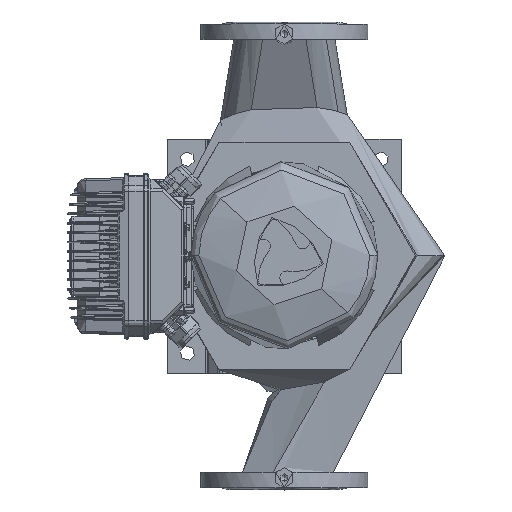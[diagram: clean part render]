
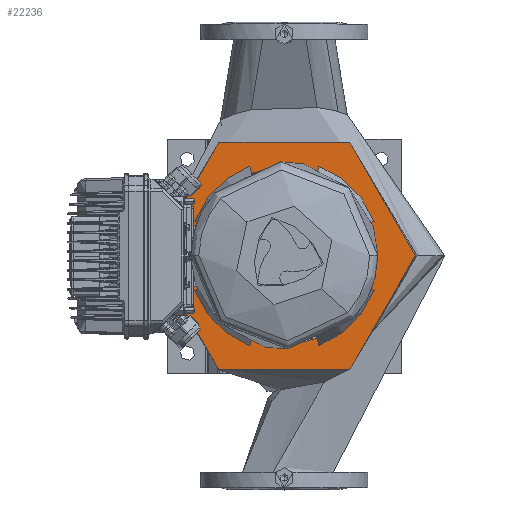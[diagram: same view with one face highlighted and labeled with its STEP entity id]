
A CAD part, top view. The second image highlights one B-rep face of the part: STEP entity #22236.
In plain terms, the highlighted planar face has unit normal (0, 0, 1) as drawn and (1, 0, 0) by its records, which use the part's own axes.
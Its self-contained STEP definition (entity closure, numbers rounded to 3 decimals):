
#22236=ADVANCED_FACE('',(#44379,#44380),#44381,.T.);
#22260=EDGE_CURVE('',#44420,#44421,#44422,.T.);
#22284=EDGE_CURVE('',#44464,#44465,#44466,.T.);
#22292=EDGE_CURVE('',#44474,#44477,#44478,.T.);
#22300=EDGE_CURVE('',#44486,#44489,#44490,.T.);
#22306=EDGE_CURVE('',#44493,#44465,#44498,.T.);
#22308=EDGE_CURVE('',#44500,#44477,#44501,.T.);
#22316=EDGE_CURVE('',#44512,#44508,#44513,.T.);
#22324=EDGE_CURVE('',#44523,#44519,#44524,.T.);
#22332=EDGE_CURVE('',#44530,#44533,#44534,.T.);
#22342=EDGE_CURVE('',#44544,#44474,#44547,.T.);
#22348=EDGE_CURVE('',#44552,#44486,#44555,.T.);
#22356=EDGE_CURVE('',#44563,#44558,#44566,.T.);
#22358=EDGE_CURVE('',#44489,#44508,#44568,.T.);
#22362=EDGE_CURVE('',#44558,#44519,#44572,.T.);
#22366=EDGE_CURVE('',#44533,#44464,#44576,.T.);
#22370=EDGE_CURVE('',#44500,#44552,#44580,.T.);
#22374=EDGE_CURVE('',#44512,#44563,#44584,.T.);
#22376=EDGE_CURVE('',#44493,#44544,#44586,.T.);
#22380=EDGE_CURVE('',#44421,#44420,#44590,.T.);
#22382=EDGE_CURVE('',#44523,#44530,#44592,.T.);
#44379=FACE_OUTER_BOUND('',#283011,.T.);
#44380=FACE_BOUND('',#283012,.T.);
#44381=PLANE('',#283013);
#44420=VERTEX_POINT('',#283054);
#44421=VERTEX_POINT('',#283055);
#44422=CIRCLE('',#283056,196.0);
#44464=VERTEX_POINT('',#283110);
#44465=VERTEX_POINT('',#283111);
#44466=CIRCLE('',#283112,132.799);
#44474=VERTEX_POINT('',#283132);
#44477=VERTEX_POINT('',#283145);
#44478=CIRCLE('',#283146,132.799);
#44486=VERTEX_POINT('',#283166);
#44489=VERTEX_POINT('',#283179);
#44490=CIRCLE('',#283180,132.799);
#44493=VERTEX_POINT('',#283184);
#44498=LINE('',#283201,#283202);
#44500=VERTEX_POINT('',#283205);
#44501=LINE('',#283206,#283207);
#44508=VERTEX_POINT('',#283227);
#44512=VERTEX_POINT('',#283241);
#44513=LINE('',#283242,#283243);
#44519=VERTEX_POINT('',#283262);
#44523=VERTEX_POINT('',#283276);
#44524=LINE('',#283277,#283278);
#44530=VERTEX_POINT('',#283297);
#44533=VERTEX_POINT('',#283310);
#44534=LINE('',#283311,#283312);
#44544=VERTEX_POINT('',#283337);
#44547=LINE('',#283350,#283351);
#44552=VERTEX_POINT('',#283359);
#44555=LINE('',#283372,#283373);
#44558=VERTEX_POINT('',#283377);
#44563=VERTEX_POINT('',#283394);
#44566=LINE('',#283407,#283408);
#44568=CIRCLE('',#283411,132.799);
#44572=CIRCLE('',#283417,132.799);
#44576=CIRCLE('',#283423,132.799);
#44580=CIRCLE('',#283429,144.0);
#44584=CIRCLE('',#283435,144.0);
#44586=CIRCLE('',#283438,144.0);
#44590=CIRCLE('',#283444,196.0);
#44592=CIRCLE('',#283447,144.0);
#283011=EDGE_LOOP('',(#335716,#335717));
#283012=EDGE_LOOP('',(#335718,#335719,#335720,#335721,#335722,#335723,#335724,#335725,#335726,#335727,#335728,#335729,#335730,#335731,#335732,#335733,#335734,#335735));
#283013=AXIS2_PLACEMENT_3D('',#335736,#335737,#335738);
#283054=CARTESIAN_POINT('',(20.0,196.0,0.0));
#283055=CARTESIAN_POINT('',(20.0,-196.0,0.));
#283056=AXIS2_PLACEMENT_3D('',#335838,#335839,#335840);
#283110=CARTESIAN_POINT('',(20.0,-132.799,0.));
#283111=CARTESIAN_POINT('',(20.0,-123.51,-48.794));
#283112=AXIS2_PLACEMENT_3D('',#335874,#335875,#335876);
#283132=CARTESIAN_POINT('',(20.0,-48.794,-123.51));
#283145=CARTESIAN_POINT('',(20.0,48.794,-123.51));
#283146=AXIS2_PLACEMENT_3D('',#335880,#335881,#335882);
#283166=CARTESIAN_POINT('',(20.0,123.51,-48.794));
#283179=CARTESIAN_POINT('',(20.0,132.799,0.));
#283180=AXIS2_PLACEMENT_3D('',#335886,#335887,#335888);
#283184=CARTESIAN_POINT('',(20.0,-134.395,-51.711));
#283201=CARTESIAN_POINT('',(20.0,-134.395,-51.711));
#283202=VECTOR('',#335890,1.0);
#283205=CARTESIAN_POINT('',(20.0,51.711,-134.395));
#283206=CARTESIAN_POINT('',(20.0,51.711,-134.395));
#283207=VECTOR('',#335891,1.0);
#283227=CARTESIAN_POINT('',(20.0,123.51,48.794));
#283241=CARTESIAN_POINT('',(20.0,134.395,51.711));
#283242=CARTESIAN_POINT('',(20.0,134.395,51.711));
#283243=VECTOR('',#335893,1.0);
#283262=CARTESIAN_POINT('',(20.0,-48.794,123.51));
#283276=CARTESIAN_POINT('',(20.0,-51.711,134.395));
#283277=CARTESIAN_POINT('',(20.0,-51.711,134.395));
#283278=VECTOR('',#335895,1.0);
#283297=CARTESIAN_POINT('',(20.0,-134.395,51.711));
#283310=CARTESIAN_POINT('',(20.0,-123.51,48.794));
#283311=CARTESIAN_POINT('',(20.0,-134.395,51.711));
#283312=VECTOR('',#335897,1.0);
#283337=CARTESIAN_POINT('',(20.0,-51.711,-134.395));
#283350=CARTESIAN_POINT('',(20.0,-51.711,-134.395));
#283351=VECTOR('',#335900,1.0);
#283359=CARTESIAN_POINT('',(20.0,134.395,-51.711));
#283372=CARTESIAN_POINT('',(20.0,134.395,-51.711));
#283373=VECTOR('',#335902,1.0);
#283377=CARTESIAN_POINT('',(20.0,48.794,123.51));
#283394=CARTESIAN_POINT('',(20.0,51.711,134.395));
#283407=CARTESIAN_POINT('',(20.0,51.711,134.395));
#283408=VECTOR('',#335904,1.0);
#283411=AXIS2_PLACEMENT_3D('',#335905,#335906,#335907);
#283417=AXIS2_PLACEMENT_3D('',#335911,#335912,#335913);
#283423=AXIS2_PLACEMENT_3D('',#335917,#335918,#335919);
#283429=AXIS2_PLACEMENT_3D('',#335923,#335924,#335925);
#283435=AXIS2_PLACEMENT_3D('',#335929,#335930,#335931);
#283438=AXIS2_PLACEMENT_3D('',#335932,#335933,#335934);
#283444=AXIS2_PLACEMENT_3D('',#335938,#335939,#335940);
#283447=AXIS2_PLACEMENT_3D('',#335941,#335942,#335943);
#335716=ORIENTED_EDGE('',*,*,#22260,.T.);
#335717=ORIENTED_EDGE('',*,*,#22380,.T.);
#335718=ORIENTED_EDGE('',*,*,#22382,.F.);
#335719=ORIENTED_EDGE('',*,*,#22324,.T.);
#335720=ORIENTED_EDGE('',*,*,#22362,.F.);
#335721=ORIENTED_EDGE('',*,*,#22356,.F.);
#335722=ORIENTED_EDGE('',*,*,#22374,.F.);
#335723=ORIENTED_EDGE('',*,*,#22316,.T.);
#335724=ORIENTED_EDGE('',*,*,#22358,.F.);
#335725=ORIENTED_EDGE('',*,*,#22300,.F.);
#335726=ORIENTED_EDGE('',*,*,#22348,.F.);
#335727=ORIENTED_EDGE('',*,*,#22370,.F.);
#335728=ORIENTED_EDGE('',*,*,#22308,.T.);
#335729=ORIENTED_EDGE('',*,*,#22292,.F.);
#335730=ORIENTED_EDGE('',*,*,#22342,.F.);
#335731=ORIENTED_EDGE('',*,*,#22376,.F.);
#335732=ORIENTED_EDGE('',*,*,#22306,.T.);
#335733=ORIENTED_EDGE('',*,*,#22284,.F.);
#335734=ORIENTED_EDGE('',*,*,#22366,.F.);
#335735=ORIENTED_EDGE('',*,*,#22332,.F.);
#335736=CARTESIAN_POINT('',(20.0,170.0,0.0));
#335737=DIRECTION('',(1.0,0.0,0.0));
#335738=DIRECTION('',(0.0,0.0,-1.0));
#335838=CARTESIAN_POINT('',(20.0,0.0,0.0));
#335839=DIRECTION('',(1.0,0.0,0.0));
#335840=DIRECTION('',(0.0,1.0,0.0));
#335874=CARTESIAN_POINT('',(20.0,0.0,0.0));
#335875=DIRECTION('',(1.0,0.0,0.0));
#335876=DIRECTION('',(0.0,1.0,0.0));
#335880=CARTESIAN_POINT('',(20.0,0.0,0.0));
#335881=DIRECTION('',(1.0,0.0,0.0));
#335882=DIRECTION('',(0.0,1.0,0.0));
#335886=CARTESIAN_POINT('',(20.0,0.0,0.0));
#335887=DIRECTION('',(1.0,0.0,0.0));
#335888=DIRECTION('',(0.0,1.0,0.0));
#335890=DIRECTION('',(0.,0.966,0.259));
#335891=DIRECTION('',(0.,-0.259,0.966));
#335893=DIRECTION('',(0.,-0.966,-0.259));
#335895=DIRECTION('',(0.,0.259,-0.966));
#335897=DIRECTION('',(0.,0.966,-0.259));
#335900=DIRECTION('',(0.,0.259,0.966));
#335902=DIRECTION('',(0.,-0.966,0.259));
#335904=DIRECTION('',(0.,-0.259,-0.966));
#335905=CARTESIAN_POINT('',(20.0,0.0,0.0));
#335906=DIRECTION('',(1.0,0.0,0.0));
#335907=DIRECTION('',(0.0,1.0,0.0));
#335911=CARTESIAN_POINT('',(20.0,0.0,0.0));
#335912=DIRECTION('',(1.0,0.0,0.0));
#335913=DIRECTION('',(0.0,1.0,0.0));
#335917=CARTESIAN_POINT('',(20.0,0.0,0.0));
#335918=DIRECTION('',(1.0,0.0,0.0));
#335919=DIRECTION('',(0.0,1.0,0.0));
#335923=CARTESIAN_POINT('',(20.0,0.0,0.0));
#335924=DIRECTION('',(1.0,0.0,0.0));
#335925=DIRECTION('',(0.0,1.0,0.0));
#335929=CARTESIAN_POINT('',(20.0,0.0,0.0));
#335930=DIRECTION('',(1.0,0.0,0.0));
#335931=DIRECTION('',(0.0,1.0,0.0));
#335932=CARTESIAN_POINT('',(20.0,0.0,0.0));
#335933=DIRECTION('',(1.0,0.0,0.0));
#335934=DIRECTION('',(0.0,1.0,0.0));
#335938=CARTESIAN_POINT('',(20.0,0.0,0.0));
#335939=DIRECTION('',(1.0,0.0,0.0));
#335940=DIRECTION('',(0.0,1.0,0.0));
#335941=CARTESIAN_POINT('',(20.0,0.0,0.0));
#335942=DIRECTION('',(1.0,0.0,0.0));
#335943=DIRECTION('',(0.0,1.0,0.0));
